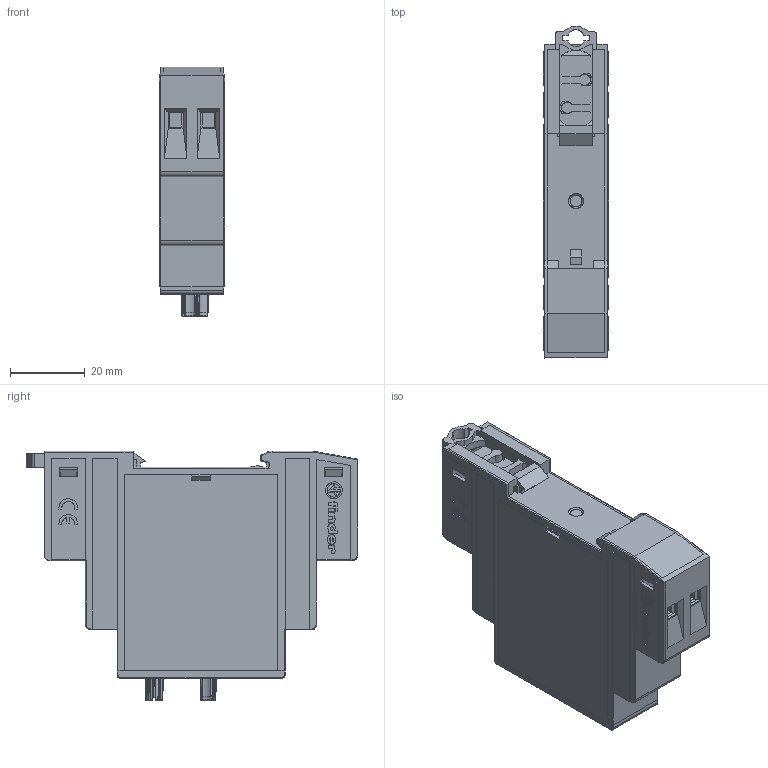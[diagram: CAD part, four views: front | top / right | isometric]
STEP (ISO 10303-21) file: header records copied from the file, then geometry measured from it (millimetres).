
FILE_DESCRIPTION(('STEP AP214'),'2;1');
FILE_NAME('19_50---catalogo_OK.stp','2011-02-24T09:17:15',(''),(''),'2007.1.106','THINKDESIGN','');
FILE_SCHEMA(('AUTOMOTIVE_DESIGN'));
Products named in the file (1): None
Bounding box: 17.5 x 88.85 x 66.8 mm (x, y, z)
Surface area: 19762 mm2 (no closed solid volume)
Topology: 0 solids, 0 shells, 1370 faces, 8346 edges, 8304 vertices
Faces by surface type: plane 991, bspline 260, cylinder 119
Full cylindrical faces by diameter (mm): 3 x8, 5 x8
Entity records: 90473 total; most frequent: CARTESIAN_POINT 34117, DIRECTION 9168, COMPOSITE_CURVE_SEGMENT 8338, TRIMMED_CURVE 6688, VECTOR 6484, LINE 6484, OUTER_BOUNDARY_CURVE 1370, CURVE_BOUNDED_SURFACE 1370
